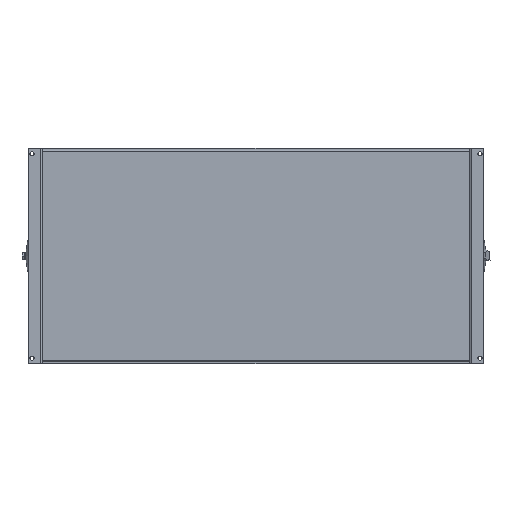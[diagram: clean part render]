
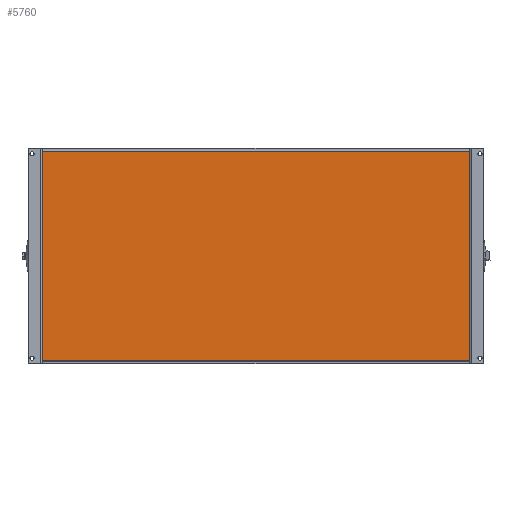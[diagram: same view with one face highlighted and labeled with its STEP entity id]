
A CAD part, front view. The second image highlights one B-rep face of the part: STEP entity #5760.
In plain terms, the highlighted planar face has unit normal (0, -1, 0).
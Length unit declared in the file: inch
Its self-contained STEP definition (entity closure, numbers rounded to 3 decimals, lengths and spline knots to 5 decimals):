
#32 = PLANE ( 'NONE',  #2922 ) ;
#154 = FACE_OUTER_BOUND ( 'NONE', #558, .T. ) ;
#212 = DIRECTION ( 'NONE',  ( 0., 0., 1. ) ) ;
#476 = VECTOR ( 'NONE', #4140, 39.37008 ) ;
#558 = EDGE_LOOP ( 'NONE', ( #3627, #3667, #2576, #1692 ) ) ;
#563 = LINE ( 'NONE', #3652, #5938 ) ;
#622 = DIRECTION ( 'NONE',  ( -1., 0., 0. ) ) ;
#1040 = VERTEX_POINT ( 'NONE', #1105 ) ;
#1105 = CARTESIAN_POINT ( 'NONE',  ( 59.625, 0.375, -14.553 ) ) ;
#1228 = LINE ( 'NONE', #2751, #3869 ) ;
#1258 = DIRECTION ( 'NONE',  ( 0., -1., 0. ) ) ;
#1623 = VERTEX_POINT ( 'NONE', #4306 ) ;
#1692 = ORIENTED_EDGE ( 'NONE', *, *, #2129, .F. ) ;
#1860 = VERTEX_POINT ( 'NONE', #3285 ) ;
#1888 = CARTESIAN_POINT ( 'NONE',  ( 0., 0.375, 14.553 ) ) ;
#2071 = DIRECTION ( 'NONE',  ( 0., 0., -1. ) ) ;
#2129 = EDGE_CURVE ( 'NONE', #1623, #4875, #563, .T. ) ;
#2221 = CARTESIAN_POINT ( 'NONE',  ( 94.02119, 0.375, -14.553 ) ) ;
#2488 = EDGE_CURVE ( 'NONE', #1860, #4875, #3050, .T. ) ;
#2563 = CARTESIAN_POINT ( 'NONE',  ( 94.02119, 0.375, 14.75 ) ) ;
#2576 = ORIENTED_EDGE ( 'NONE', *, *, #2488, .T. ) ;
#2635 = VECTOR ( 'NONE', #622, 39.37008 ) ;
#2751 = CARTESIAN_POINT ( 'NONE',  ( 59.625, 0.375, 14.75 ) ) ;
#2922 = AXIS2_PLACEMENT_3D ( 'NONE', #2563, #1258, #2071 ) ;
#3050 = LINE ( 'NONE', #3480, #476 ) ;
#3053 = DIRECTION ( 'NONE',  ( 0., 0., 1. ) ) ;
#3285 = CARTESIAN_POINT ( 'NONE',  ( 59.625, 0.375, 14.553 ) ) ;
#3480 = CARTESIAN_POINT ( 'NONE',  ( 94.02119, 0.375, 14.553 ) ) ;
#3627 = ORIENTED_EDGE ( 'NONE', *, *, #4835, .F. ) ;
#3652 = CARTESIAN_POINT ( 'NONE',  ( 0., 0.375, 14.75 ) ) ;
#3667 = ORIENTED_EDGE ( 'NONE', *, *, #5809, .T. ) ;
#3869 = VECTOR ( 'NONE', #212, 39.37008 ) ;
#4140 = DIRECTION ( 'NONE',  ( -1., 0., 0. ) ) ;
#4268 = LINE ( 'NONE', #2221, #2635 ) ;
#4306 = CARTESIAN_POINT ( 'NONE',  ( 0., 0.375, -14.553 ) ) ;
#4835 = EDGE_CURVE ( 'NONE', #1040, #1623, #4268, .T. ) ;
#4875 = VERTEX_POINT ( 'NONE', #1888 ) ;
#5760 = ADVANCED_FACE ( 'NONE', ( #154 ), #32, .T. ) ;
#5809 = EDGE_CURVE ( 'NONE', #1040, #1860, #1228, .T. ) ;
#5938 = VECTOR ( 'NONE', #3053, 39.37008 ) ;
